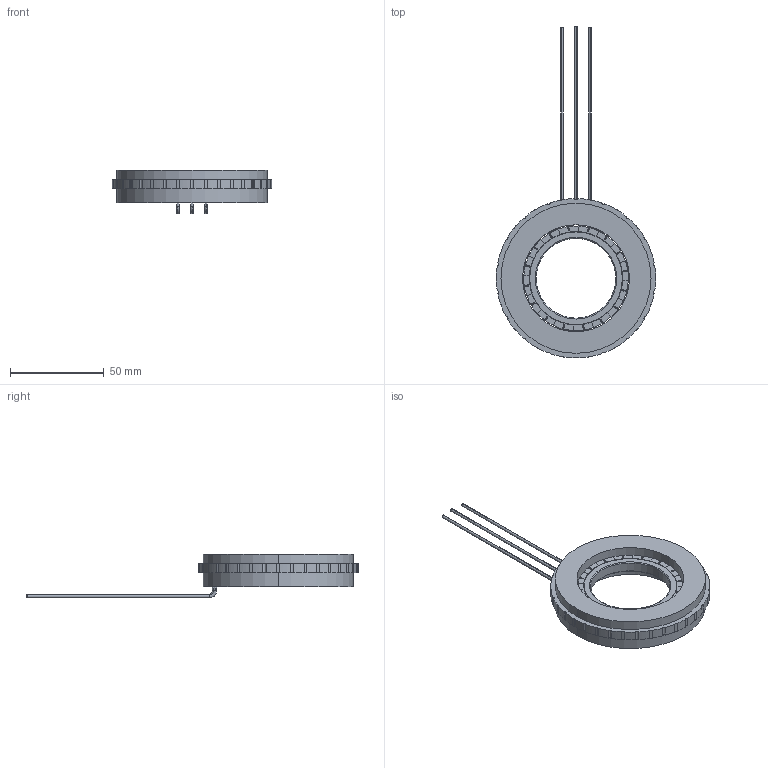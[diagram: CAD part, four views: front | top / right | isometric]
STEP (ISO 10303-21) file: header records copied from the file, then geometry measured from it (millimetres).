
FILE_DESCRIPTION (( 'STEP AP203' ), '1' );
FILE_NAME ('307090726SS 无框力矩电机（FMC08505-0015-3042N-8DS00）-V1.0.STEP', '2025-07-23T02:06:47', ( '' ), ( '' ), 'SwSTEP 2.0', 'SolidWorks 2023', '' );
FILE_SCHEMA (( 'CONFIG_CONTROL_DESIGN' ));
Length unit declared in the file: millimetre
Products named in the file (1): 307090726SS 无框力矩电机（FMC08505-0015-3042N-8DS00）-V1.0
Bounding box: 84.98 x 176.99 x 23.28 mm (x, y, z)
Volume: 53190.1 mm3; surface area: 21742.4 mm2
Topology: 21 solids, 21 shells, 892 faces, 2432 edges, 1616 vertices
Faces by surface type: plane 368, bspline 368, cylinder 142, cone 8, torus 6
Entity records: 52783 total; most frequent: CARTESIAN_POINT 32965, ORIENTED_EDGE 4864, DIRECTION 2776, EDGE_CURVE 2432, VERTEX_POINT 1616, VECTOR 1090, LINE 1090, B_SPLINE_CURVE_WITH_KNOTS 1024
